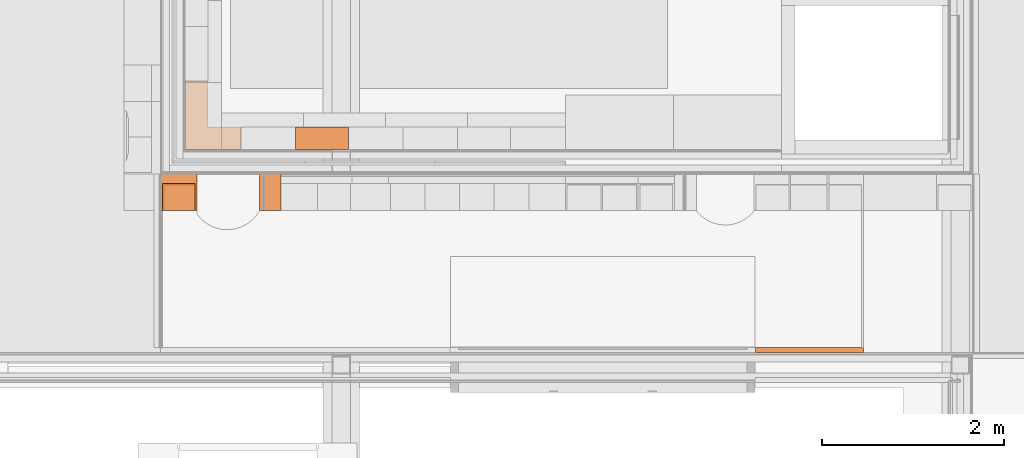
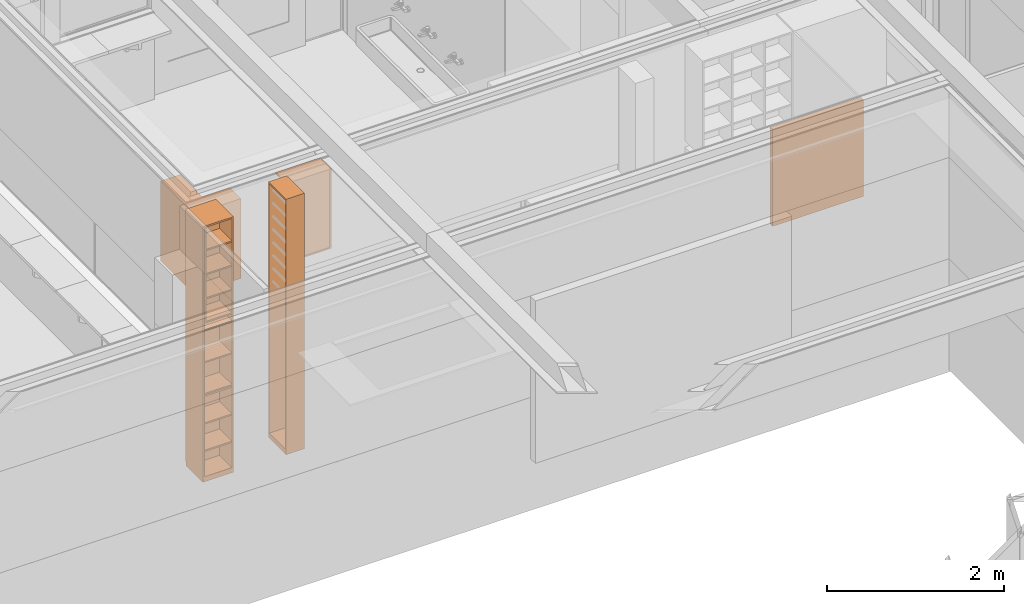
# One storey, part 128 of 137: 8 proxies.
"""IFC2X3 building model written with IfcOpenShell, lengths in millimetres."""

from ifc_helpers import new_model, entity, si_unit, converted_unit, derived_unit, money_unit, direction, frame, origin_with_axes, place, context, subcontext, project, spatial, faceted_brep, material, type_object, element, save


model = new_model("IFC2X3")

# Units and contexts
model_context = context("Model", 3, precision=0.01, world=origin_with_axes(), true_north=direction((0.0, 1.0)))
body_context = subcontext(model_context, "Body", "Model", "MODEL_VIEW")
ifc_project = project(units=[si_unit("LENGTHUNIT", "METRE", prefix="MILLI"), si_unit("AREAUNIT", "SQUARE_METRE"), si_unit("VOLUMEUNIT", "CUBIC_METRE"), converted_unit("PLANEANGLEUNIT", "DEGREE", entity("IfcPlaneAngleMeasure", 0.0174532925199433), si_unit("PLANEANGLEUNIT", "RADIAN"), dimensions=[0, 0, 0, 0, 0, 0, 0]), money_unit("EUR"), converted_unit("TIMEUNIT", "Year", entity("IfcTimeMeasure", 31556926.0), si_unit("TIMEUNIT", "SECOND"), dimensions=[0, 0, 1, 0, 0, 0, 0]), si_unit("MASSUNIT", "GRAM", prefix="KILO"), si_unit("THERMODYNAMICTEMPERATUREUNIT", "DEGREE_CELSIUS"), si_unit("LUMINOUSINTENSITYUNIT", "LUMEN"), si_unit("ENERGYUNIT", "JOULE", prefix="MEGA"), derived_unit("THERMALCONDUCTANCEUNIT", [(si_unit("POWERUNIT", "WATT"), 1), (si_unit("LENGTHUNIT", "METRE"), -1), (si_unit("THERMODYNAMICTEMPERATUREUNIT", "KELVIN"), -1)]), derived_unit("SPECIFICHEATCAPACITYUNIT", [(si_unit("ENERGYUNIT", "JOULE"), 1), (si_unit("MASSUNIT", "GRAM", prefix="KILO"), -1), (si_unit("THERMODYNAMICTEMPERATUREUNIT", "KELVIN"), -1)]), derived_unit("MASSDENSITYUNIT", [(si_unit("MASSUNIT", "GRAM", prefix="KILO"), 1), (si_unit("VOLUMEUNIT", "CUBIC_METRE"), -1)])], contexts=[model_context])

# Site, building, storey
site_placement = place(None, origin_with_axes())
site = spatial("IfcSite", under=ifc_project, at=site_placement, Name="Site", CompositionType="ELEMENT")
building_placement = place(site_placement, origin_with_axes())
building = spatial("IfcBuilding", under=site, at=building_placement, Name="Naam gebouw", CompositionType="ELEMENT")
storey_placement = place(building_placement, frame((0.0, 0.0, 3960.0), z_axis=(0.0, 0.0, 1.0), x_axis=(1.0, 0.0, 0.0)))
storey = spatial("IfcBuildingStorey", under=building, at=storey_placement, Name="1e verdieping", CompositionType="ELEMENT", Elevation=3960.0)

# Proxies
building_element_proxy_type_1 = type_object("IfcBuildingElementProxyType", Name="Onderkast recht 26", PredefinedType="NOTDEFINED")
proxy_1_placement = place(storey_placement, frame((17040.00661817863, 12504.99778166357, 0.0), z_axis=(0.0, 0.0, 1.0), x_axis=(0.0, -1.0, 0.0)))
element("IfcBuildingElementProxy", 1, at=proxy_1_placement, inside=storey, type_object=building_element_proxy_type_1, Name="_Leeg", context=body_context, shape_type="Brep", body=[
    faceted_brep([(-18.0, -239.9999999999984, 50.0), (-18.0, -239.9999999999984, 68.0), (-382.0, -239.9999999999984, 68.0), (-382.0, -239.9999999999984, 50.0), (-18.0, 0.0, 50.0), (-18.0, 0.0, 68.0), (-382.0, 0.0, 68.0), (-382.0, 0.0, 50.0)], [[[0, 1, 2, 3]], [[4, 5, 1, 0]], [[1, 5, 6, 2]], [[3, 2, 6, 7]], [[0, 3, 7, 4]], [[7, 6, 5, 4]]]),
    faceted_brep([(-18.0, -239.9999999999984, 3507.0), (-18.0, -239.9999999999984, 3525.0), (-382.0, -239.9999999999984, 3525.0), (-382.0, -239.9999999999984, 3507.0), (-18.0, 0.0, 3507.0), (-18.0, 0.0, 3525.0), (-382.0, 0.0, 3525.0), (-382.0, 0.0, 3507.0)], [[[0, 1, 2, 3]], [[4, 5, 1, 0]], [[1, 5, 6, 2]], [[3, 2, 6, 7]], [[0, 3, 7, 4]], [[7, 6, 5, 4]]]),
    faceted_brep([(0.0, 0.0, 50.0), (0.0, 0.0, 3525.0), (0.0, -239.9999999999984, 3525.0), (0.0, -239.9999999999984, 50.0), (-18.0, 0.0, 50.0), (-18.0, 0.0, 3525.0), (-18.0, -239.9999999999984, 3525.0), (-18.0, -239.9999999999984, 50.0)], [[[0, 1, 2, 3]], [[4, 5, 1, 0]], [[1, 5, 6, 2]], [[3, 2, 6, 7]], [[0, 3, 7, 4]], [[7, 6, 5, 4]]]),
    faceted_brep([(-400.0, -239.9999999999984, 50.0), (-400.0, -239.9999999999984, 3525.0), (-400.0, 0.0, 3525.0), (-400.0, 0.0, 50.0), (-382.0, -239.9999999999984, 50.0), (-382.0, -239.9999999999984, 3525.0), (-382.0, 0.0, 3525.0), (-382.0, 0.0, 50.0)], [[[0, 1, 2, 3]], [[4, 5, 1, 0]], [[1, 5, 6, 2]], [[3, 2, 6, 7]], [[0, 3, 7, 4]], [[7, 6, 5, 4]]]),
    faceted_brep([(-382.0, -9.0, 68.0), (-382.0, -9.0, 3507.0), (-18.00000000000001, -9.0, 3507.0), (-18.00000000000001, -9.0, 68.0), (-382.0, -18.0, 68.0), (-382.0, -18.0, 3507.0), (-18.00000000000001, -18.0, 3507.0), (-18.00000000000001, -18.0, 68.0)], [[[0, 1, 2, 3]], [[4, 5, 1, 0]], [[1, 5, 6, 2]], [[3, 2, 6, 7]], [[0, 3, 7, 4]], [[7, 6, 5, 4]]]),
    faceted_brep([(0.0, -239.9999999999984, 0.0), (0.0, -239.9999999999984, 50.0), (-400.0, -239.9999999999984, 50.0), (-400.0, -239.9999999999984, 0.0), (0.0, 0.0, 0.0), (0.0, 0.0, 50.0), (-400.0, 0.0, 50.0), (-400.0, 0.0, 0.0)], [[[0, 1, 2, 3]], [[4, 5, 1, 0]], [[1, 5, 6, 2]], [[3, 2, 6, 7]], [[0, 3, 7, 4]], [[7, 6, 5, 4]]]),
])
proxy_2_placement = place(storey_placement, frame((16114.9994538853, 12804.99778166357, 2190.0), z_axis=(0.0, 0.0, 1.0), x_axis=(1.0, 0.0, 0.0)))
element("IfcBuildingElementProxy", 2, at=proxy_2_placement, inside=storey, type_object=building_element_proxy_type_1, Name="_Leeg", context=body_context, shape_type="Brep", body=[
    faceted_brep([(-20.00000000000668, -300.0000000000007, 343.2500000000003), (-20.00000000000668, -18.00000000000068, 343.2500000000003), (-361.9999999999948, -18.00000000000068, 343.2500000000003), (-361.9999999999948, -300.0000000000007, 343.2500000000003), (-20.00000000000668, -18.00000000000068, 325.2499999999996), (-20.00000000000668, -300.0000000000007, 325.2499999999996), (-361.9999999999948, -18.00000000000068, 325.2499999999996), (-361.9999999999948, -300.0000000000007, 325.2499999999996)], [[[0, 1, 2, 3]], [[4, 1, 0, 5]], [[1, 4, 6, 2]], [[6, 7, 3, 2]], [[5, 0, 3, 7]], [[4, 5, 7, 6]]]),
    faceted_brep([(-20.00000000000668, -300.0000000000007, 677.5000000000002), (-20.00000000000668, -18.00000000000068, 677.5000000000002), (-361.9999999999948, -18.00000000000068, 677.5000000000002), (-361.9999999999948, -300.0000000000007, 677.5000000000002), (-20.00000000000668, -18.00000000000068, 659.4999999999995), (-20.00000000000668, -300.0000000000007, 659.4999999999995), (-361.9999999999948, -18.00000000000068, 659.4999999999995), (-361.9999999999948, -300.0000000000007, 659.4999999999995)], [[[0, 1, 2, 3]], [[4, 1, 0, 5]], [[1, 4, 6, 2]], [[6, 7, 3, 2]], [[5, 0, 3, 7]], [[4, 5, 7, 6]]]),
    faceted_brep([(-20.00000000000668, -300.0000000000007, 1011.749999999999), (-20.00000000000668, -18.00000000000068, 1011.749999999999), (-361.9999999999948, -18.00000000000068, 1011.749999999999), (-361.9999999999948, -300.0000000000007, 1011.749999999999), (-20.00000000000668, -18.00000000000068, 993.7499999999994), (-20.00000000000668, -300.0000000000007, 993.7499999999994), (-361.9999999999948, -18.00000000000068, 993.7499999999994), (-361.9999999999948, -300.0000000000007, 993.7499999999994)], [[[0, 1, 2, 3]], [[4, 1, 0, 5]], [[1, 4, 6, 2]], [[6, 7, 3, 2]], [[5, 0, 3, 7]], [[4, 5, 7, 6]]]),
    faceted_brep([(-20.00000000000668, -300.0000000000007, 18.00000000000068), (-20.00000000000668, 0.0, 17.99999999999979), (-361.9999999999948, 0.0, 17.99999999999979), (-361.9999999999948, -300.0000000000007, 17.99999999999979), (-20.00000000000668, 0.0, 0.0), (-20.00000000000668, -300.0000000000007, 0.0), (-361.9999999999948, 0.0, 0.0), (-361.9999999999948, -300.0000000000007, 0.0)], [[[0, 1, 2, 3]], [[4, 1, 0, 5]], [[1, 4, 6, 2]], [[6, 7, 3, 2]], [[5, 0, 3, 7]], [[4, 5, 7, 6]]]),
    faceted_brep([(-20.00000000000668, -18.00000000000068, 1317.0), (-20.00000000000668, -9.000000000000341, 1317.0), (-361.9999999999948, -9.000000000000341, 1317.0), (-361.9999999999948, -18.00000000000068, 1317.0), (-20.00000000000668, -9.000000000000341, 17.99999999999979), (-20.00000000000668, -18.00000000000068, 17.99999999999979), (-361.9999999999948, -9.000000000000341, 17.99999999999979), (-361.9999999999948, -18.00000000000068, 17.99999999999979)], [[[0, 1, 2, 3]], [[4, 1, 0, 5]], [[1, 4, 6, 2]], [[3, 2, 6, 7]], [[5, 0, 3, 7]], [[4, 5, 7, 6]]]),
    faceted_brep([(-379.999999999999, 0.0, 1317.0), (-361.9999999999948, 0.0, 1317.0), (-361.9999999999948, 0.0, 0.0), (-379.9999999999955, 0.0, 0.0), (-361.9999999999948, -300.0000000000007, 1317.0), (-379.999999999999, -300.0000000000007, 1317.0), (-361.9999999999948, -300.0000000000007, 0.0), (-379.9999999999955, -300.0000000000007, 0.0)], [[[0, 1, 2, 3]], [[4, 1, 0, 5]], [[1, 4, 6, 2]], [[6, 7, 3, 2]], [[5, 0, 3, 7]], [[4, 5, 7, 6]]]),
])
proxy_3_placement = place(storey_placement, frame((16114.9994538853, 12804.99776626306, 52.00000000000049), z_axis=(0.0, 0.0, 1.0), x_axis=(1.0, 0.0, 0.0)))
element("IfcBuildingElementProxy", 3, at=proxy_3_placement, inside=storey, type_object=building_element_proxy_type_1, Name="_Leeg", context=body_context, shape_type="Brep", body=[
    faceted_brep([(-379.999999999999, -300.0000000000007, 366.6666666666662), (-19.99999999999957, -300.0000000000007, 366.6666666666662), (-19.99999999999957, -300.0000000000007, 384.6666666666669), (-379.999999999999, -300.0000000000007, 384.6666666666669), (-19.99999999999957, -19.99999999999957, 366.6666666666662), (-379.999999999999, -19.99999999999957, 366.6666666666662), (-19.99999999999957, -19.99999999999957, 384.6666666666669), (-379.999999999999, -19.99999999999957, 384.6666666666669)], [[[0, 1, 2, 3]], [[4, 1, 0, 5]], [[1, 4, 6, 2]], [[3, 2, 6, 7]], [[5, 0, 3, 7]], [[4, 5, 7, 6]]]),
    faceted_brep([(-379.999999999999, -300.0000000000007, 743.3333333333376), (-19.99999999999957, -300.0000000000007, 743.3333333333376), (-19.99999999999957, -300.0000000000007, 761.3333333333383), (-379.999999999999, -300.0000000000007, 761.3333333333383), (-19.99999999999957, -19.99999999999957, 743.3333333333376), (-379.999999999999, -19.99999999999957, 743.3333333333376), (-19.99999999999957, -19.99999999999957, 761.3333333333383), (-379.999999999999, -19.99999999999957, 761.3333333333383)], [[[0, 1, 2, 3]], [[4, 1, 0, 5]], [[1, 4, 6, 2]], [[3, 2, 6, 7]], [[5, 0, 3, 7]], [[4, 5, 7, 6]]]),
    faceted_brep([(-20.00000000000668, -299.9999845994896, 17.99999999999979), (-20.00000000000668, 0.0, 17.99999999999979), (-19.99999999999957, 0.0, 19.99999999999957), (-19.99999999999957, -300.0000000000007, 19.99999999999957), (-379.999999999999, 0.0, 17.99999999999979), (-379.999999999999, -299.9999845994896, 17.99999999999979), (-379.999999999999, 0.0, 19.99999999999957), (-379.999999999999, -300.0000000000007, 19.99999999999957)], [[[0, 1, 2, 3]], [[4, 1, 0, 5]], [[1, 4, 6, 2]], [[7, 3, 2, 6]], [[5, 0, 3, 7]], [[4, 5, 7, 6]]]),
    faceted_brep([(-19.99999999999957, -9.999999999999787, 19.99999999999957), (-379.999999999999, -9.999999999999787, 19.99999999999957), (-379.999999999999, -9.999999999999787, 1127.999999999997), (-19.99999999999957, -9.999999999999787, 1127.999999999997), (-379.999999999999, -19.99999999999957, 19.99999999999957), (-19.99999999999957, -19.99999999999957, 19.99999999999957), (-379.999999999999, -19.99999999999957, 1127.999999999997), (-19.99999999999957, -19.99999999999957, 1127.999999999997)], [[[0, 1, 2, 3]], [[4, 1, 0, 5]], [[1, 4, 6, 2]], [[3, 2, 6, 7]], [[5, 0, 3, 7]], [[4, 5, 7, 6]]]),
    faceted_brep([(-379.999999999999, -300.0000000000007, 1127.999999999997), (-19.99999999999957, -300.0000000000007, 1127.999999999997), (-19.99999999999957, -300.0000000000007, 1147.999999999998), (-379.999999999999, -300.0000000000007, 1147.999999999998), (-19.99999999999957, 0.0, 1127.999999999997), (-379.999999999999, 0.0, 1127.999999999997), (-19.99999999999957, 0.0, 1147.999999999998), (-379.999999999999, 0.0, 1147.999999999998)], [[[0, 1, 2, 3]], [[4, 1, 0, 5]], [[1, 4, 6, 2]], [[3, 2, 6, 7]], [[5, 0, 3, 7]], [[4, 5, 7, 6]]]),
])
proxy_4_placement = place(storey_placement, frame((16114.9994538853, 12804.99776626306, 1199.999999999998), z_axis=(0.0, 0.0, 1.0), x_axis=(1.0, 0.0, 0.0)))
element("IfcBuildingElementProxy", 4, at=proxy_4_placement, inside=storey, type_object=building_element_proxy_type_1, Name="_Leeg", context=body_context, shape_type="Brep", body=[
    faceted_brep([(-379.999999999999, -18.00000000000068, 441.0000000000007), (-379.999999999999, -18.00000000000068, 459.0000000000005), (-20.00000000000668, -18.00000000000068, 459.0000000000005), (-20.00000000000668, -18.00000000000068, 441.0000000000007), (-379.999999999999, -299.9999845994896, 459.0000000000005), (-379.999999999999, -299.9999845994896, 441.0000000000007), (-20.00000000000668, -299.9999845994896, 459.0000000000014), (-20.00000000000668, -299.9999845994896, 441.0000000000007)], [[[0, 1, 2, 3]], [[4, 1, 0, 5]], [[1, 4, 6, 2]], [[3, 2, 6, 7]], [[5, 0, 3, 7]], [[4, 5, 7, 6]]]),
    faceted_brep([(-379.999999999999, 0.0, 0.0), (-379.999999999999, 0.0, 17.99999999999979), (-20.00000000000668, 0.0, 17.99999999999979), (-20.00000000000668, 0.0, 0.0), (-379.999999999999, -299.9999845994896, 17.99999999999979), (-379.999999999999, -299.9999845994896, 0.0), (-20.00000000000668, -299.9999845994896, 17.99999999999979), (-20.00000000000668, -299.9999845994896, 0.0)], [[[0, 1, 2, 3]], [[4, 1, 0, 5]], [[1, 4, 6, 2]], [[3, 2, 6, 7]], [[5, 0, 3, 7]], [[4, 5, 7, 6]]]),
    faceted_brep([(-379.999999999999, -9.000000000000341, 17.99999999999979), (-379.999999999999, -9.000000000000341, 882.0000000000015), (-20.00000000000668, -9.000000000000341, 882.0000000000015), (-20.00000000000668, -9.000000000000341, 17.99999999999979), (-379.999999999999, -18.00000000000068, 882.0000000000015), (-379.999999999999, -18.00000000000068, 17.99999999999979), (-20.00000000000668, -18.00000000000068, 882.0000000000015), (-20.00000000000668, -18.00000000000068, 17.99999999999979)], [[[0, 1, 2, 3]], [[4, 1, 0, 5]], [[1, 4, 6, 2]], [[3, 2, 6, 7]], [[5, 0, 3, 7]], [[4, 5, 7, 6]]]),
    faceted_brep([(-379.999999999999, 0.0, 882.0000000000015), (-379.999999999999, 0.0, 900.0000000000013), (-20.00000000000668, 0.0, 900.0000000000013), (-20.00000000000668, 0.0, 882.0000000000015), (-379.999999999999, -299.9999845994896, 900.0000000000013), (-379.999999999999, -299.9999845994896, 882.0000000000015), (-20.00000000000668, -299.9999845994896, 900.0000000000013), (-20.00000000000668, -299.9999845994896, 882.0000000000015)], [[[0, 1, 2, 3]], [[4, 1, 0, 5]], [[1, 4, 6, 2]], [[3, 2, 6, 7]], [[5, 0, 3, 7]], [[4, 5, 7, 6]]]),
])
proxy_5_placement = place(storey_placement, frame((17778.00661817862, 13174.99778166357, 2100.000000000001), z_axis=(0.0, 0.0, 1.0), x_axis=(-1.0, 0.0, 0.0)))
element("IfcBuildingElementProxy", 5, at=proxy_5_placement, inside=storey, type_object=building_element_proxy_type_1, Name="_Leeg", context=body_context, shape_type="Brep", body=[
    faceted_brep([(18.00000000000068, -250.0, 559.0000000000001), (18.00000000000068, -250.0, 541.0000000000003), (582.0000000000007, -250.0, 541.0000000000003), (582.0000000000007, -250.0, 559.0000000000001), (18.00000000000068, -18.00000000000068, 559.0000000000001), (18.00000000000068, -18.00000000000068, 541.0000000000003), (582.0000000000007, -18.00000000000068, 541.0000000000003), (582.0000000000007, -18.00000000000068, 559.0000000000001)], [[[0, 1, 2, 3]], [[4, 5, 1, 0]], [[2, 1, 5, 6]], [[3, 2, 6, 7]], [[4, 0, 3, 7]], [[7, 6, 5, 4]]]),
    faceted_brep([(18.00000000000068, -250.0, 17.99999999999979), (18.00000000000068, -250.0, 0.0), (582.0000000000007, -250.0, 0.0), (582.0000000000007, -250.0, 17.99999999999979), (18.00000000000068, 0.0, 17.99999999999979), (18.00000000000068, 0.0, 0.0), (582.0000000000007, 0.0, 0.0), (582.0000000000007, 0.0, 17.99999999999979)], [[[0, 1, 2, 3]], [[4, 5, 1, 0]], [[2, 1, 5, 6]], [[3, 2, 6, 7]], [[4, 0, 3, 7]], [[7, 6, 5, 4]]]),
    faceted_brep([(582.0000000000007, -9.000000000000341, 1082.0), (582.0000000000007, -9.000000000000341, 17.99999999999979), (18.00000000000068, -9.000000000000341, 17.99999999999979), (18.00000000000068, -9.000000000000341, 1082.0), (582.0000000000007, -18.00000000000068, 1082.0), (582.0000000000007, -18.00000000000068, 17.99999999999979), (18.00000000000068, -18.00000000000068, 17.99999999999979), (18.00000000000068, -18.00000000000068, 1082.0)], [[[0, 1, 2, 3]], [[4, 5, 1, 0]], [[2, 1, 5, 6]], [[3, 2, 6, 7]], [[4, 0, 3, 7]], [[7, 6, 5, 4]]]),
    faceted_brep([(18.00000000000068, -250.0, 1100.0), (18.00000000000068, -250.0, 1082.0), (582.0000000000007, -250.0, 1082.0), (582.0000000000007, -250.0, 1100.0), (18.00000000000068, 0.0, 1100.0), (18.00000000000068, 0.0, 1082.0), (582.0000000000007, 0.0, 1082.0), (582.0000000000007, 0.0, 1100.0)], [[[0, 1, 2, 3]], [[4, 5, 1, 0]], [[2, 1, 5, 6]], [[3, 2, 6, 7]], [[4, 0, 3, 7]], [[7, 6, 5, 4]]]),
    faceted_brep([(0.0, 0.0, 1100.0), (0.0, 0.0, 0.0), (0.0, -250.0, 0.0), (0.0, -250.0, 1100.0), (18.00000000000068, 0.0, 1100.0), (18.00000000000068, 0.0, 0.0), (18.00000000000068, -250.0, 0.0), (18.00000000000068, -250.0, 1100.0)], [[[0, 1, 2, 3]], [[4, 5, 1, 0]], [[2, 1, 5, 6]], [[3, 2, 6, 7]], [[4, 0, 3, 7]], [[7, 6, 5, 4]]]),
    faceted_brep([(580.9999999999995, -250.0, 19.00000000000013), (580.9999999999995, -250.0, 540.0), (18.99999999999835, -250.0, 540.0), (18.99999999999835, -250.0, 19.00000000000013), (511.1907786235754, -250.0, 275.7606042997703), (512.5442325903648, -250.0, 270.7094453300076), (512.9999999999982, -250.0, 265.5000000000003), (512.5442325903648, -250.0, 260.290554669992), (511.1907786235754, -250.0, 255.2393957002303), (508.9807621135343, -250.0, 250.4999999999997), (505.981333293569, -250.0, 246.2163717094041), (502.2836282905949, -250.0, 242.518666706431), (498.0000000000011, -250.0, 239.5192378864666), (493.2606042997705, -250.0, 237.3092213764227), (488.209445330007, -250.0, 235.9557674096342), (483.0000000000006, -250.0, 235.5000000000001), (477.7905546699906, -250.0, 235.9557674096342), (472.7393957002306, -250.0, 237.3092213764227), (468.0, -250.0, 239.5192378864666), (463.7163717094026, -250.0, 242.518666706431), (460.0186667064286, -250.0, 246.2163717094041), (457.0192378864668, -250.0, 250.4999999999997), (454.8092213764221, -250.0, 255.2393957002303), (453.4557674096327, -250.0, 260.290554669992), (452.9999999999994, -250.0, 265.5000000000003), (453.4557674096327, -250.0, 270.7094453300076), (454.8092213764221, -250.0, 275.7606042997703), (457.0192378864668, -250.0, 280.5), (460.0186667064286, -250.0, 284.7836282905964), (463.7163717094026, -250.0, 288.4813332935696), (468.0, -250.0, 291.4807621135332), (472.7393957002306, -250.0, 293.6907786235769), (477.7905546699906, -250.0, 295.0442325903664), (483.0000000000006, -250.0, 295.4999999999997), (488.209445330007, -250.0, 295.0442325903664), (493.2606042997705, -250.0, 293.6907786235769), (498.0000000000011, -250.0, 291.4807621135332), (502.2836282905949, -250.0, 288.4813332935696), (505.981333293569, -250.0, 284.7836282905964), (508.9807621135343, -250.0, 280.5), (580.9999999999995, -231.9999999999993, 540.0), (580.9999999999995, -231.9999999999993, 19.00000000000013), (18.99999999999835, -231.9999999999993, 540.0), (18.99999999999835, -231.9999999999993, 19.00000000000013), (511.1907786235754, -231.9999999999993, 275.7606042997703), (512.5442325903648, -231.9999999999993, 270.7094453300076), (512.9999999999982, -231.9999999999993, 265.5000000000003), (512.5442325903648, -231.9999999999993, 260.290554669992), (511.1907786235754, -231.9999999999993, 255.2393957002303), (508.9807621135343, -231.9999999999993, 250.4999999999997), (505.981333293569, -231.9999999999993, 246.2163717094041), (502.2836282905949, -231.9999999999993, 242.518666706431), (498.0000000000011, -231.9999999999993, 239.5192378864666), (493.2606042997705, -231.9999999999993, 237.3092213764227), (488.209445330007, -231.9999999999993, 235.9557674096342), (483.0000000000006, -231.9999999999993, 235.5000000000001), (477.7905546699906, -231.9999999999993, 235.9557674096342), (472.7393957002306, -231.9999999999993, 237.3092213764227), (468.0, -231.9999999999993, 239.5192378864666), (463.7163717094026, -231.9999999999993, 242.518666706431), (460.0186667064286, -231.9999999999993, 246.2163717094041), (457.0192378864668, -231.9999999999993, 250.4999999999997), (454.8092213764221, -231.9999999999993, 255.2393957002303), (453.4557674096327, -231.9999999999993, 260.290554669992), (452.9999999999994, -231.9999999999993, 265.5000000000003), (453.4557674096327, -231.9999999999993, 270.7094453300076), (454.8092213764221, -231.9999999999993, 275.7606042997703), (457.0192378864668, -231.9999999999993, 280.5), (460.0186667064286, -231.9999999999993, 284.7836282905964), (463.7163717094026, -231.9999999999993, 288.4813332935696), (468.0, -231.9999999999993, 291.4807621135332), (472.7393957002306, -231.9999999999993, 293.6907786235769), (477.7905546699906, -231.9999999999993, 295.0442325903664), (483.0000000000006, -231.9999999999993, 295.4999999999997), (488.209445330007, -231.9999999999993, 295.0442325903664), (493.2606042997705, -231.9999999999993, 293.6907786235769), (498.0000000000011, -231.9999999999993, 291.4807621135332), (502.2836282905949, -231.9999999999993, 288.4813332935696), (505.981333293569, -231.9999999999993, 284.7836282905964), (508.9807621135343, -231.9999999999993, 280.5)], [[[0, 1, 2, 3], [4, 5, 6, 7, 8, 9, 10, 11, 12, 13, 14, 15, 16, 17, 18, 19, 20, 21, 22, 23, 24, 25, 26, 27, 28, 29, 30, 31, 32, 33, 34, 35, 36, 37, 38, 39]], [[40, 1, 0, 41]], [[42, 2, 1, 40]], [[43, 3, 2, 42]], [[41, 0, 3, 43]], [[44, 45, 5, 4]], [[45, 46, 6, 5]], [[46, 47, 7, 6]], [[47, 48, 8, 7]], [[48, 49, 9, 8]], [[49, 50, 10, 9]], [[50, 51, 11, 10]], [[51, 52, 12, 11]], [[52, 53, 13, 12]], [[53, 54, 14, 13]], [[54, 55, 15, 14]], [[55, 56, 16, 15]], [[56, 57, 17, 16]], [[57, 58, 18, 17]], [[58, 59, 19, 18]], [[59, 60, 20, 19]], [[60, 61, 21, 20]], [[61, 62, 22, 21]], [[62, 63, 23, 22]], [[63, 64, 24, 23]], [[64, 65, 25, 24]], [[65, 66, 26, 25]], [[66, 67, 27, 26]], [[67, 68, 28, 27]], [[68, 69, 29, 28]], [[69, 70, 30, 29]], [[70, 71, 31, 30]], [[71, 72, 32, 31]], [[72, 73, 33, 32]], [[73, 74, 34, 33]], [[74, 75, 35, 34]], [[75, 76, 36, 35]], [[76, 77, 37, 36]], [[77, 78, 38, 37]], [[78, 79, 39, 38]], [[79, 44, 4, 39]], [[42, 40, 41, 43], [48, 47, 46, 45, 44, 79, 78, 77, 76, 75, 74, 73, 72, 71, 70, 69, 68, 67, 66, 65, 64, 63, 62, 61, 60, 59, 58, 57, 56, 55, 54, 53, 52, 51, 50, 49]]]),
])
proxy_6_placement = place(storey_placement, frame((16114.99945388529, 12904.99778166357, 0.0), z_axis=(0.0, 0.0, 1.0), x_axis=(1.0, 0.0, 0.0)))
element("IfcBuildingElementProxy", 6, at=proxy_6_placement, inside=storey, type_object=building_element_proxy_type_1, Name="_Leeg", context=body_context, shape_type="Brep", body=[
    faceted_brep([(-398.9999999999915, -18.0, 51.00000000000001), (-398.9999999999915, 0.0, 51.00000000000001), (-1.000000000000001, 0.0, 51.00000000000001), (-1.000000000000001, -18.0, 51.00000000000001), (-398.9999999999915, -18.00000000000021, 3526.000000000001), (-398.9999999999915, 0.0, 3526.000000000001), (-1.000000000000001, 0.0, 3526.000000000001), (-1.000000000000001, -18.00000000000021, 3526.000000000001)], [[[0, 1, 2, 3]], [[4, 5, 1, 0]], [[1, 5, 6, 2]], [[3, 2, 6, 7]], [[0, 3, 7, 4]], [[7, 6, 5, 4]]]),
    faceted_brep([(-20.0, -400.0000000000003, 50.0), (-20.0, -400.0000000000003, 70.0), (-379.9999999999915, -400.0000000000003, 70.0), (-379.9999999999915, -400.0000000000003, 50.0), (-20.0, -18.0, 50.0), (-20.0, -18.0, 70.0), (-379.9999999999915, -18.0, 70.0), (-379.9999999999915, -18.0, 50.0)], [[[0, 1, 2, 3]], [[4, 5, 1, 0]], [[1, 5, 6, 2]], [[3, 2, 6, 7]], [[0, 3, 7, 4]], [[7, 6, 5, 4]]]),
    faceted_brep([(-20.0, -400.0000000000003, 3507.0), (-20.0, -400.0000000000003, 3527.0), (-379.9999999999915, -400.0000000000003, 3527.0), (-379.9999999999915, -400.0000000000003, 3507.0), (-20.0, -18.0, 3507.0), (-20.0, -18.0, 3527.0), (-379.9999999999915, -18.0, 3527.0), (-379.9999999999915, -18.0, 3507.0)], [[[0, 1, 2, 3]], [[4, 5, 1, 0]], [[1, 5, 6, 2]], [[3, 2, 6, 7]], [[0, 3, 7, 4]], [[7, 6, 5, 4]]]),
    faceted_brep([(0.0, -18.0, 50.0), (0.0, -18.0, 3527.0), (0.0, -400.0000000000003, 3527.0), (0.0, -400.0000000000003, 50.0), (-20.0, -18.0, 50.0), (-20.0, -18.0, 3527.0), (-20.0, -400.0000000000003, 3527.0), (-20.0, -400.0000000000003, 50.0)], [[[0, 1, 2, 3]], [[4, 5, 1, 0]], [[1, 5, 6, 2]], [[3, 2, 6, 7]], [[0, 3, 7, 4]], [[7, 6, 5, 4]]]),
    faceted_brep([(-399.9999999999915, -400.0000000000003, 50.0), (-399.9999999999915, -400.0000000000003, 3527.0), (-399.9999999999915, -18.00000000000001, 3527.0), (-399.9999999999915, -18.00000000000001, 50.0), (-379.9999999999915, -400.0000000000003, 50.0), (-379.9999999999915, -400.0000000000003, 3527.0), (-379.9999999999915, -18.00000000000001, 3527.0), (-379.9999999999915, -18.00000000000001, 50.0)], [[[0, 1, 2, 3]], [[4, 5, 1, 0]], [[1, 5, 6, 2]], [[3, 2, 6, 7]], [[0, 3, 7, 4]], [[7, 6, 5, 4]]]),
    faceted_brep([(-379.9999999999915, -28.0, 70.0), (-379.9999999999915, -28.0, 3507.0), (-20.00000000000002, -28.0, 3507.0), (-20.00000000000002, -28.0, 70.0), (-379.9999999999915, -38.0, 70.0), (-379.9999999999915, -38.0, 3507.0), (-20.00000000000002, -38.0, 3507.0), (-20.00000000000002, -38.0, 70.0)], [[[0, 1, 2, 3]], [[4, 5, 1, 0]], [[1, 5, 6, 2]], [[3, 2, 6, 7]], [[0, 3, 7, 4]], [[7, 6, 5, 4]]]),
    faceted_brep([(0.0, -400.0000000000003, 0.0), (0.0, -400.0000000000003, 50.0), (-399.9999999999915, -400.0000000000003, 50.0), (-399.9999999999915, -400.0000000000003, 0.0), (0.0, -18.0, 0.0), (0.0, -18.0, 50.0), (-399.9999999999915, -18.0, 50.0), (-399.9999999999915, -18.0, 0.0)], [[[0, 1, 2, 3]], [[4, 5, 1, 0]], [[1, 5, 6, 2]], [[3, 2, 6, 7]], [[0, 3, 7, 4]], [[7, 6, 5, 4]]]),
])
ifc_material = material(Name="ALG - ALGEMEEN")
building_element_proxy_type_2 = type_object("IfcBuildingElementProxyType", Name="ALG - ALGEMEEN 55", PredefinedType="NOTDEFINED")
proxy_7_placement = place(storey_placement, frame((22249.99942456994, 10945.00011055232, 2105.0), z_axis=(0.0, 0.0, 1.0), x_axis=(1.0, 0.0, 0.0)))
element("IfcBuildingElementProxy", 7, at=proxy_7_placement, inside=storey, type_object=building_element_proxy_type_2, material=ifc_material, Name="_Wand-x", context=body_context, shape_type="Brep", body=[
    faceted_brep([(1184.999615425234, 0.0, 1422.000000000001), (1184.999615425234, 3.255787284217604e-05, 84.99999999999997), (1184.999615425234, 54.99999999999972, 84.99999999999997), (1184.999615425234, 54.99999999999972, 1422.000000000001), (0.0, 0.0, 1422.000000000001), (0.0, 3.255787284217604e-05, 84.99999999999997), (0.0, 54.99999999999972, 84.99999999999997), (0.0, 54.99999999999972, 1422.000000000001)], [[[0, 1, 2, 3]], [[4, 5, 1, 0]], [[5, 6, 2, 1]], [[3, 2, 6, 7]], [[7, 4, 0, 3]], [[7, 6, 5, 4]]]),
])
building_element_proxy_type_3 = type_object("IfcBuildingElementProxyType", Name="Onderkast hoek S 26", PredefinedType="NOTDEFINED")
proxy_8_placement = place(storey_placement, frame((15984.99945960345, 13174.99778166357, 2100.0), z_axis=(0.0, 0.0, 1.0), x_axis=(0.0, 1.0, 0.0)))
element("IfcBuildingElementProxy", 8, at=proxy_8_placement, inside=storey, type_object=building_element_proxy_type_3, Name="_Leeg", context=body_context, shape_type="Brep", body=[
    faceted_brep([(18.0, -593.0071585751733, 541.0000000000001), (232.0, -593.0071585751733, 541.0000000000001), (232.0, -593.0071585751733, 559.0000000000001), (18.0, -593.0071585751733, 559.0000000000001), (18.0, -18.0, 541.0000000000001), (737.0094972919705, -17.99999999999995, 541.0000000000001), (737.0094972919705, -250.0, 541.0000000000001), (356.0, -250.0000000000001, 541.0000000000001), (356.0, -232.0, 541.0000000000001), (232.0, -232.0000000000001, 541.0000000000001), (232.0, -232.0000000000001, 559.0000000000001), (356.0, -232.0, 559.0000000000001), (356.0, -250.0000000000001, 559.0000000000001), (737.0094972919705, -250.0, 559.0000000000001), (737.0094972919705, -17.99999999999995, 559.0000000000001), (18.0, -18.0, 559.0000000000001)], [[[0, 1, 2, 3]], [[0, 4, 5, 6, 7, 8, 9, 1]], [[1, 9, 10, 2]], [[3, 2, 10, 11, 12, 13, 14, 15]], [[4, 0, 3, 15]], [[5, 4, 15, 14]], [[6, 5, 14, 13]], [[7, 6, 13, 12]], [[8, 7, 12, 11]], [[9, 8, 11, 10]]]),
    faceted_brep([(0.0, -593.0071585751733, 0.0), (250.0, -593.0071585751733, 0.0), (250.0, -593.0071585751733, 18.0), (0.0, -593.0071585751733, 18.0), (0.0, 0.0, 0.0), (737.0094972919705, 0.0, 0.0), (737.0094972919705, -250.0, 0.0), (250.0, -250.0000000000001, 0.0), (250.0, -250.0000000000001, 18.0), (737.0094972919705, -250.0, 18.0), (737.0094972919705, 0.0, 18.0), (0.0, 0.0, 18.0)], [[[0, 1, 2, 3]], [[0, 4, 5, 6, 7, 1]], [[1, 7, 8, 2]], [[3, 2, 8, 9, 10, 11]], [[4, 0, 3, 11]], [[5, 4, 11, 10]], [[6, 5, 10, 9]], [[7, 6, 9, 8]]]),
    faceted_brep([(0.0, -593.0071585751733, 1082.0), (250.0, -593.0071585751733, 1082.0), (250.0, -593.0071585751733, 1100.0), (0.0, -593.0071585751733, 1100.0), (0.0, 0.0, 1082.0), (737.0094972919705, 0.0, 1082.0), (737.0094972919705, -250.0, 1082.0), (250.0, -250.0000000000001, 1082.0), (250.0, -250.0000000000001, 1100.0), (737.0094972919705, -250.0, 1100.0), (737.0094972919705, 0.0, 1100.0), (0.0, 0.0, 1100.0)], [[[0, 1, 2, 3]], [[0, 4, 5, 6, 7, 1]], [[1, 7, 8, 2]], [[3, 2, 8, 9, 10, 11]], [[4, 0, 3, 11]], [[5, 4, 11, 10]], [[6, 5, 10, 9]], [[7, 6, 9, 8]]]),
    faceted_brep([(0.0, -611.0071585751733, 0.0), (250.0, -611.0071585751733, 0.0), (250.0, -611.0071585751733, 1100.0), (0.0, -611.0071585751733, 1100.0), (0.0, -593.0071585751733, 0.0), (250.0, -593.0071585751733, 0.0), (250.0, -593.0071585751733, 1100.0), (0.0, -593.0071585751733, 1100.0)], [[[0, 1, 2, 3]], [[0, 4, 5, 1]], [[1, 5, 6, 2]], [[3, 2, 6, 7]], [[4, 0, 3, 7]], [[5, 4, 7, 6]]]),
    faceted_brep([(0.0, 0.0, 18.0), (0.0, -593.0071585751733, 18.0), (0.0, -593.0071585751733, 1082.0), (0.0, 0.0, 1082.0), (18.0, -18.0, 18.0), (18.0, -593.0071585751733, 18.0), (18.0, -593.0071585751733, 1082.0), (18.0, -18.0, 1082.0)], [[[0, 1, 2, 3]], [[0, 4, 5, 1]], [[1, 5, 6, 2]], [[3, 2, 6, 7]], [[4, 0, 3, 7]], [[5, 4, 7, 6]]]),
    faceted_brep([(755.0094972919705, -250.0, 0.0), (755.0094972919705, 0.0, 0.0), (755.0094972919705, 0.0, 1100.0), (755.0094972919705, -250.0, 1100.0), (737.0094972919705, -250.0, 0.0), (737.0094972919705, 0.0, 0.0), (737.0094972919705, 0.0, 1100.0), (737.0094972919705, -250.0, 1100.0)], [[[0, 1, 2, 3]], [[0, 4, 5, 1]], [[1, 5, 6, 2]], [[3, 2, 6, 7]], [[4, 0, 3, 7]], [[5, 4, 7, 6]]]),
    faceted_brep([(737.0094972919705, 0.0, 18.0), (0.0, 0.0, 18.0), (0.0, 0.0, 1082.0), (737.0094972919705, 0.0, 1082.0), (737.0094972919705, -17.99999999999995, 18.0), (18.00000000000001, -18.0, 18.0), (18.00000000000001, -18.0, 1082.0), (737.0094972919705, -17.99999999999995, 1082.0)], [[[0, 1, 2, 3]], [[0, 4, 5, 1]], [[1, 5, 6, 2]], [[3, 2, 6, 7]], [[4, 0, 3, 7]], [[5, 4, 7, 6]]]),
    faceted_brep([(232.0, -593.0071585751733, 18.0), (250.0, -593.0071585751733, 18.0), (250.0, -593.0071585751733, 1082.0), (232.0, -593.0071585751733, 1082.0), (232.0, -232.0000000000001, 18.0), (356.0, -232.0, 18.0), (356.0, -250.0000000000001, 18.0), (250.0, -250.0000000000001, 18.0), (250.0, -250.0000000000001, 1082.0), (356.0, -250.0000000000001, 1082.0), (356.0, -232.0, 1082.0), (232.0, -232.0000000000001, 1082.0)], [[[0, 1, 2, 3]], [[0, 4, 5, 6, 7, 1]], [[1, 7, 8, 2]], [[3, 2, 8, 9, 10, 11]], [[4, 0, 3, 11]], [[5, 4, 11, 10]], [[6, 5, 10, 9]], [[7, 6, 9, 8]]]),
])

save(model, "model.ifc")
